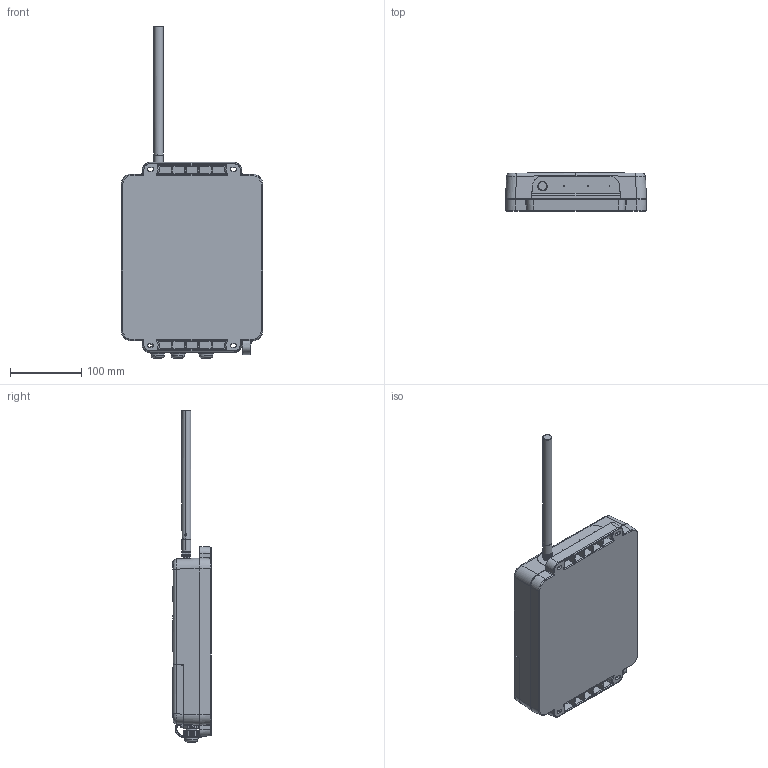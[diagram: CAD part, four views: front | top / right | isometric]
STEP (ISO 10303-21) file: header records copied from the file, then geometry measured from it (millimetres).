
FILE_DESCRIPTION (( 'STEP AP214' ), '1' );
FILE_NAME ('66.025.150-6.STEP', '2023-05-05T18:44:38', ( '' ), ( '' ), 'SwSTEP 2.0', 'SolidWorks 2021', '' );
FILE_SCHEMA (( 'AUTOMOTIVE_DESIGN' ));
Length unit declared in the file: millimetre
Products named in the file (9): 00.400.461-1; 01.100.297-1_part1; 00.305.435-6; 01.100.298-0; 00.701.393-0; 00.701.387-5; 01.100.296-3; 01.100.299-8; 66.025.150-6
Assembly tree (15 placements, depth 2):
  66.025.150-6
    01.100.297-1_part1
    01.100.296-3
    01.100.298-0
    00.701.393-0  x3
    00.305.435-6
    01.100.299-8
    00.701.387-5
    00.400.461-1  x6
Bounding box: 198 x 54 x 465.66 mm (x, y, z)
Volume: 2499641.8 mm3; surface area: 336998.8 mm2
Topology: 16 solids, 31 shells, 3984 faces, 10649 edges, 6899 vertices
Faces by surface type: plane 2041, bspline 1029, cylinder 651, torus 121, cone 98, sphere 44
Entity records: 127439 total; most frequent: CARTESIAN_POINT 57580, ORIENTED_EDGE 16358, DIRECTION 11570, EDGE_CURVE 8179, VERTEX_POINT 5287, AXIS2_PLACEMENT_3D 3863, VECTOR 3844, LINE 3844
